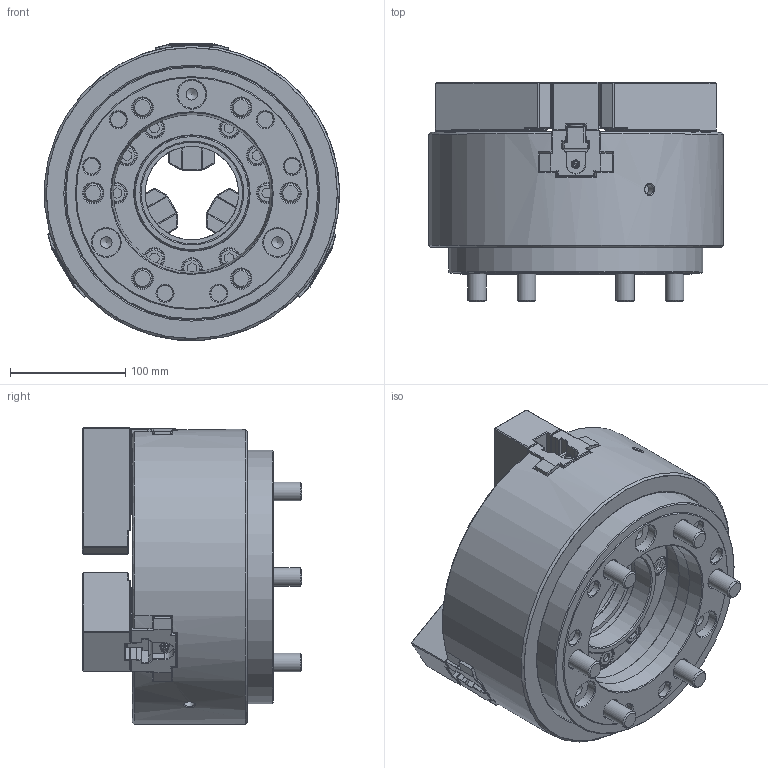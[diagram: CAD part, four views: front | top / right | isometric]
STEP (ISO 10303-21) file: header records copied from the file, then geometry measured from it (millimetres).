
FILE_DESCRIPTION(/* description */ (''),/* implementation_level */ '2;1');
FILE_NAME(/* name */ '\\Itserver\個人資料夾\柯玫如\8.網頁3D討論\1.中空油壓系列\1-1中空油壓夾頭\OPB系列\OPB-210\OPB-210-A8.stp',/* time_stamp */ '2024-11-07T12:11:23+08:00',/* author */ ('034'),/* organization */ (''),/* preprocessor_version */ 'ST-DEVELOPER v16.13',/* originating_system */ 'Autodesk Inventor 2018',/* authorisation */ '');
FILE_SCHEMA (('AUTOMOTIVE_DESIGN { 1 0 10303 214 3 1 1 }'));
Products named in the file (1): OPB-210-A8
Bounding box: 255.63 x 190.14 x 257.38 mm (x, y, z)
Volume: 5241048.5 mm3; surface area: 485942.2 mm2
Topology: 1 solids, 40 shells, 6398 faces, 20295 edges, 13005 vertices
Faces by surface type: plane 4105, cylinder 1439, bspline 559, cone 223, torus 56, sphere 16
Full cylindrical faces by diameter (mm): 6 x3, 6.5 x3, 8.6 x2, 10.3 x12, 10.5 x3, 11 x3, 12 x6, 13 x6, 14.1 x6, 16 x21, 17 x21, 18 x6, 19 x6, 24 x12, 24.2 x3, 25 x12, 81 x1, 81.2 x1, 84.5 x1, 85 x1, 85.2 x1, 86 x1, 87 x1, 88 x1, 89.148 x2, 100 x1, 136.1 x1, 148.7 x1, 156.01 x1, 220 x2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
Entity records: 225334 total; most frequent: CARTESIAN_POINT 48060, ORIENTED_EDGE 39610, DIRECTION 34199, EDGE_CURVE 19799, LINE 14479, VECTOR 14479, VERTEX_POINT 12856, AXIS2_PLACEMENT_3D 9860
